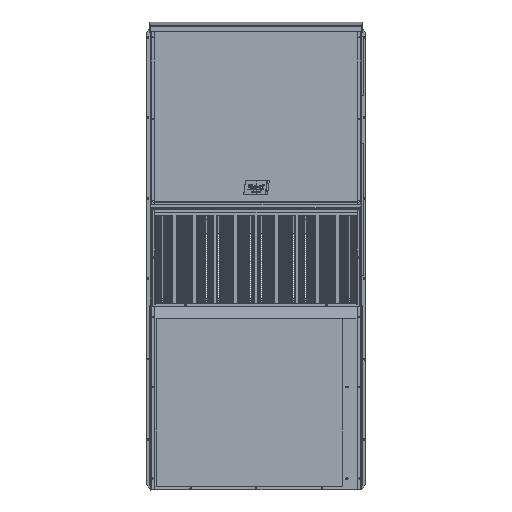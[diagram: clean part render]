
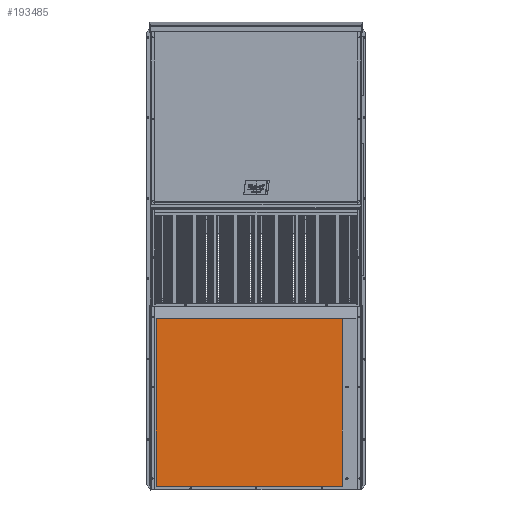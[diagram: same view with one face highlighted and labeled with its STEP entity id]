
A CAD part, top view. The second image highlights one B-rep face of the part: STEP entity #193485.
In plain terms, the highlighted planar face has unit normal (0, 0, 1) as drawn and (0, 0, -1) by its records, which use the part's own axes.
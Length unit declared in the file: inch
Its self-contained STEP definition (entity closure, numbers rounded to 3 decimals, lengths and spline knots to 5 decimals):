
#10256 = VECTOR ( 'NONE', #22830, 39.37008 ) ;
#16473 = LINE ( 'NONE', #161359, #10256 ) ;
#16925 = ORIENTED_EDGE ( 'NONE', *, *, #110890, .F. ) ;
#20726 = CARTESIAN_POINT ( 'NONE',  ( -24.06184, 41.79012, 0. ) ) ;
#22409 = CARTESIAN_POINT ( 'NONE',  ( 12.04816, 4.78762, 0. ) ) ;
#22830 = DIRECTION ( 'NONE',  ( 0., 1., 0. ) ) ;
#30983 = CARTESIAN_POINT ( 'NONE',  ( -24.06184, 4.78762, 0. ) ) ;
#41587 = ORIENTED_EDGE ( 'NONE', *, *, #45767, .F. ) ;
#42290 = DIRECTION ( 'NONE',  ( 1., 0., 0. ) ) ;
#45767 = EDGE_CURVE ( 'NONE', #221915, #203475, #16473, .T. ) ;
#47138 = CARTESIAN_POINT ( 'NONE',  ( 12.04816, 41.79012, 0. ) ) ;
#49318 = ORIENTED_EDGE ( 'NONE', *, *, #89058, .F. ) ;
#50766 = DIRECTION ( 'NONE',  ( 1., 0., 0. ) ) ;
#51173 = CARTESIAN_POINT ( 'NONE',  ( 12.04816, 41.79012, 0. ) ) ;
#75034 = CARTESIAN_POINT ( 'NONE',  ( -24.06184, 4.78762, 0. ) ) ;
#75115 = VECTOR ( 'NONE', #50766, 39.37008 ) ;
#86034 = AXIS2_PLACEMENT_3D ( 'NONE', #22409, #160948, #42290 ) ;
#89058 = EDGE_CURVE ( 'NONE', #205489, #221915, #233034, .T. ) ;
#95331 = CARTESIAN_POINT ( 'NONE',  ( 12.04816, 4.78762, 0. ) ) ;
#109762 = VERTEX_POINT ( 'NONE', #20726 ) ;
#110890 = EDGE_CURVE ( 'NONE', #203475, #109762, #219567, .T. ) ;
#124134 = CARTESIAN_POINT ( 'NONE',  ( -24.06184, 41.79012, 0. ) ) ;
#150779 = ORIENTED_EDGE ( 'NONE', *, *, #228109, .F. ) ;
#160948 = DIRECTION ( 'NONE',  ( 0., 0., 1. ) ) ;
#161359 = CARTESIAN_POINT ( 'NONE',  ( 12.04816, 4.78762, 0. ) ) ;
#167019 = VECTOR ( 'NONE', #249374, 39.37008 ) ;
#174154 = VECTOR ( 'NONE', #202801, 39.37008 ) ;
#179142 = PLANE ( 'NONE',  #86034 ) ;
#193485 = ADVANCED_FACE ( 'NONE', ( #235134 ), #179142, .F. ) ;
#196278 = EDGE_LOOP ( 'NONE', ( #150779, #16925, #41587, #49318 ) ) ;
#202801 = DIRECTION ( 'NONE',  ( 0., -1., 0. ) ) ;
#203475 = VERTEX_POINT ( 'NONE', #47138 ) ;
#205489 = VERTEX_POINT ( 'NONE', #75034 ) ;
#219567 = LINE ( 'NONE', #51173, #167019 ) ;
#221915 = VERTEX_POINT ( 'NONE', #95331 ) ;
#228109 = EDGE_CURVE ( 'NONE', #109762, #205489, #232951, .T. ) ;
#232951 = LINE ( 'NONE', #124134, #174154 ) ;
#233034 = LINE ( 'NONE', #30983, #75115 ) ;
#235134 = FACE_OUTER_BOUND ( 'NONE', #196278, .T. ) ;
#249374 = DIRECTION ( 'NONE',  ( -1., 0., 0. ) ) ;
